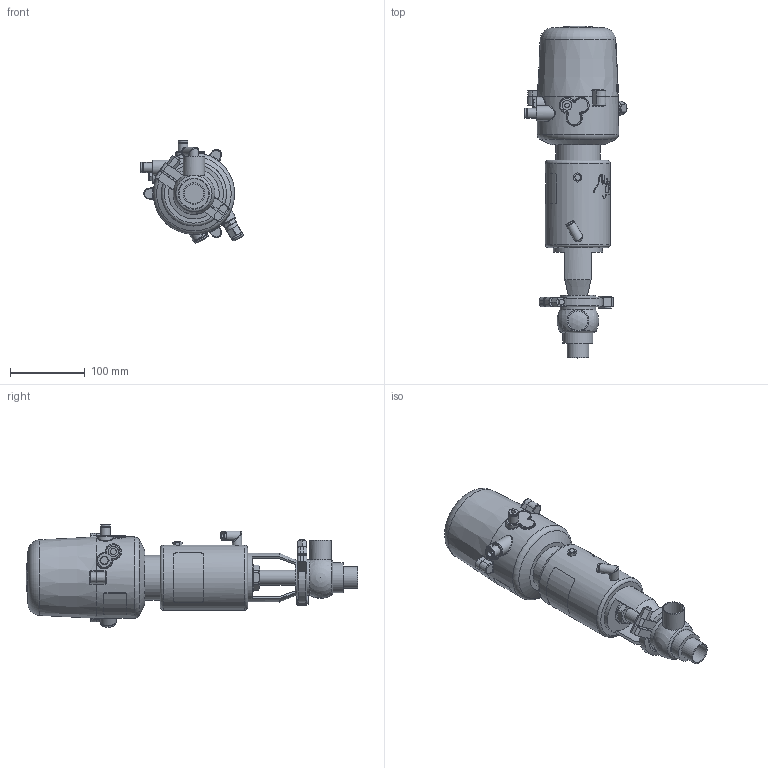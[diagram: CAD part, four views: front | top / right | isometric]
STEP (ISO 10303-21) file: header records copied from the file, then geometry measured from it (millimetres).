
FILE_DESCRIPTION (( 'STEP AP214' ), '1' );
FILE_NAME ('INNOVA N L W DIN 025 T1 AS NC & C-TOP S_10.240.16.0055.STEP', '2024-08-06T08:00:22', ( '' ), ( '' ), 'SwSTEP 2.0', 'SolidWorks 2023', '' );
FILE_SCHEMA (( 'AUTOMOTIVE_DESIGN' ));
Length unit declared in the file: millimetre
Products named in the file (7): 10.426.15.0001_C-TOP S - 1 EV; 10.240.15.0002_DIN 025; INNOVA N L W DIN 025 T1 AS NC & C-TOP S_10.240.16.0055; 10.240.15.0017_Estàndard; 10.240.15.0014_T1 AS P0; 10.240.15.0010_DN 025; 10.240.15.0001_DN 025
Assembly tree (6 placements, depth 2):
  INNOVA N L W DIN 025 T1 AS NC & C-TOP S_10.240.16.0055
    10.240.15.0002_DIN 025
    10.240.15.0010_DN 025
    10.240.15.0014_T1 AS P0
    10.240.15.0017_Estàndard
    10.426.15.0001_C-TOP S - 1 EV
    10.240.15.0001_DN 025
Bounding box: 136.88 x 445 x 137.63 mm (x, y, z)
Volume: 2368617.9 mm3; surface area: 195369 mm2
Topology: 6 solids, 6 shells, 1104 faces, 2658 edges, 1772 vertices
Faces by surface type: plane 375, cylinder 331, cone 195, bspline 160, torus 37, sphere 6
Full cylindrical faces by diameter (mm): 0.371 x17, 0.512 x16, 0.658 x16, 0.795 x16, 0.94 x15, 1.098 x15, 1.241 x13, 1.382 x13, 1.523 x11, 1.669 x10, 2.201 x1, 4 x2, 5.5 x2, 6 x2, 6.15 x1, 8 x4, 8.5 x1, 10 x1, 10.5 x1, 11 x2, 12.5 x3, 13 x2, 13.5 x2, 16 x1, 17 x3, 20 x3, 20.5 x1, 22 x2, 26 x2, 29 x2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
Entity records: 56832 total; most frequent: CARTESIAN_POINT 26746, ORIENTED_EDGE 4518, DIRECTION 3625, EDGE_CURVE 2259, VERTEX_POINT 1602, EDGE_LOOP 1549, AXIS2_PLACEMENT_3D 1480, FACE_OUTER_BOUND 1316
